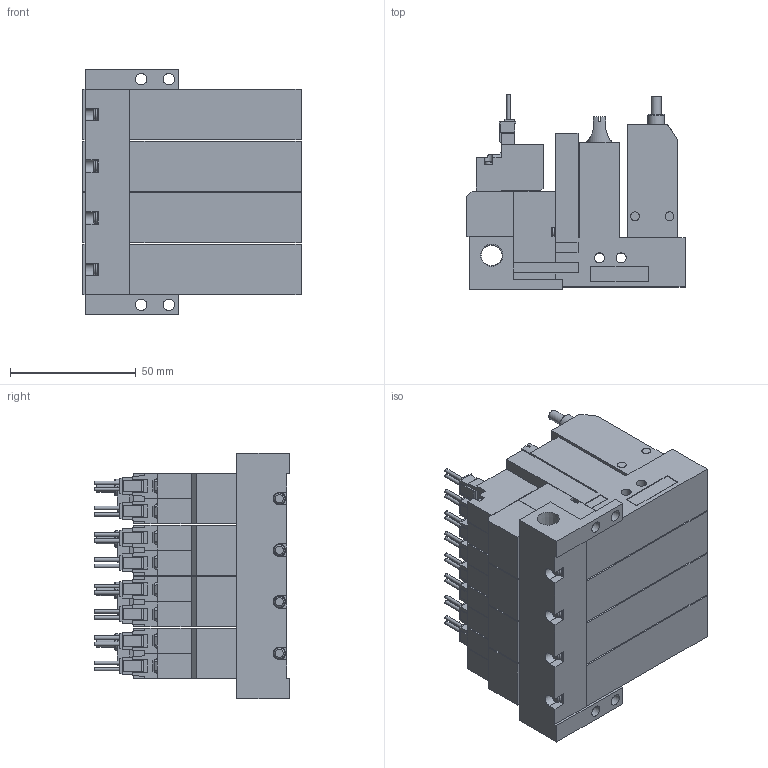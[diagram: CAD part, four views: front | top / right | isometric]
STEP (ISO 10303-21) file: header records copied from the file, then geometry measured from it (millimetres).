
FILE_DESCRIPTION(('STEP AP203'),'1');
FILE_NAME('ABS_ABPL5BLR404.stp','2025-02-18T23:32:06',(' '),(' '),'Spatial InterOp 3D',' ',' ');
FILE_SCHEMA(('CONFIG_CONTROL_DESIGN'));
Length unit declared in the file: millimetre
Products named in the file (5): BMC22M※※※※ABS_ABPL5BLR404; Solenoid valve B; Pressure sensor ABSL; Unit L; Base MR40R
Assembly tree (13 placements, depth 2):
  BMC22M※※※※ABS_ABPL5BLR404
    Solenoid valve B  x4
    Pressure sensor ABSL  x4
    Unit L  x4
    Base MR40R
Bounding box: 86.6 x 77.45 x 97.5 mm (x, y, z)
Volume: 358251.6 mm3; surface area: 99655.1 mm2
Topology: 13 solids, 13 shells, 1425 faces, 3823 edges, 2524 vertices
Faces by surface type: plane 1206, cylinder 173, cone 30, torus 16
Full cylindrical faces by diameter (mm): 1.4 x16, 2.5 x4, 3 x16, 3.5 x24, 3.6 x4, 4 x12, 4.134 x4, 4.5 x4, 5.2 x4, 6 x4, 6.5 x4, 6.6 x4, 8.279 x1
Entity records: 13021 total; most frequent: CARTESIAN_POINT 2449, DIRECTION 2071, ORIENTED_EDGE 2048, EDGE_CURVE 1024, LINE 835, VECTOR 835, VERTEX_POINT 716, AXIS2_PLACEMENT_3D 618
